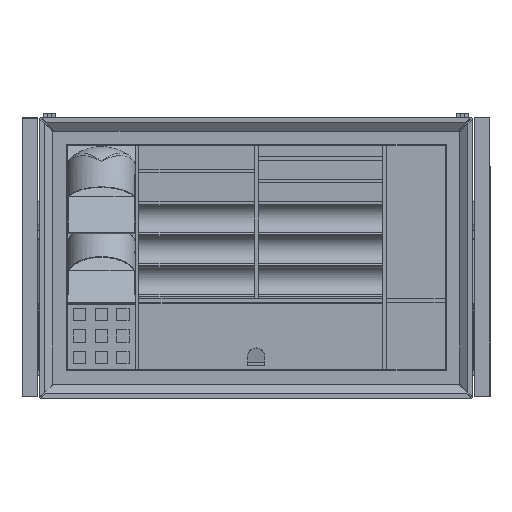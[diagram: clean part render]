
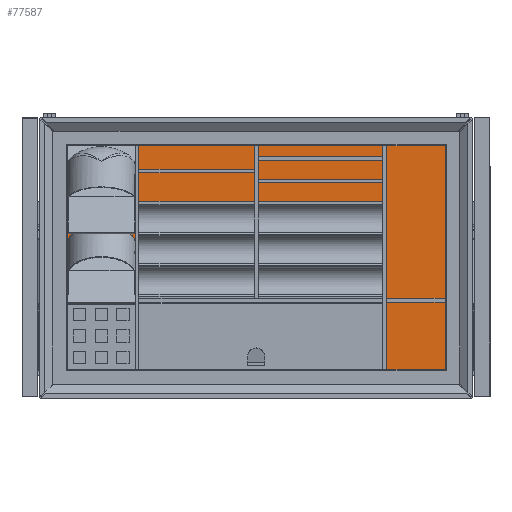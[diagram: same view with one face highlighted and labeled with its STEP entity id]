
A CAD part, top view. The second image highlights one B-rep face of the part: STEP entity #77587.
In plain terms, the highlighted planar face has unit normal (0, 0, 1).
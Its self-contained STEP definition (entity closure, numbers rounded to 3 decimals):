
#6275=ORIENTED_EDGE('',*,*,#29750,.F.);
#6276=ORIENTED_EDGE('',*,*,#29753,.T.);
#6277=ORIENTED_EDGE('',*,*,#29755,.T.);
#6278=ORIENTED_EDGE('',*,*,#29756,.F.);
#29750=EDGE_CURVE('',#41498,#41499,#48777,.T.);
#29753=EDGE_CURVE('',#41498,#41500,#48780,.T.);
#29755=EDGE_CURVE('',#41500,#41501,#48782,.T.);
#29756=EDGE_CURVE('',#41499,#41501,#48783,.T.);
#41498=VERTEX_POINT('',#115476);
#41499=VERTEX_POINT('',#115478);
#41500=VERTEX_POINT('',#115482);
#41501=VERTEX_POINT('',#115486);
#48777=LINE('',#115477,#56914);
#48780=LINE('',#115483,#56917);
#48782=LINE('',#115487,#56919);
#48783=LINE('',#115489,#56920);
#56914=VECTOR('',#91034,1000.);
#56917=VECTOR('',#91039,1000.);
#56919=VECTOR('',#91043,1000.);
#56920=VECTOR('',#91046,1000.);
#65039=EDGE_LOOP('',(#6275,#6276,#6277,#6278));
#70094=FACE_BOUND('',#65039,.T.);
#75147=PLANE('',#82846);
#77587=ADVANCED_FACE('',(#70094),#75147,.T.);
#82846=AXIS2_PLACEMENT_3D('',#115490,#91047,#91048);
#91034=DIRECTION('',(-1.,0.,0.));
#91039=DIRECTION('',(0.,1.,0.));
#91043=DIRECTION('',(-1.,0.,0.));
#91046=DIRECTION('',(0.,1.,0.));
#91047=DIRECTION('',(0.,0.,1.));
#91048=DIRECTION('',(1.,0.,0.));
#115476=CARTESIAN_POINT('',(308.,-183.5,8.4));
#115477=CARTESIAN_POINT('',(0.,-183.5,8.4));
#115478=CARTESIAN_POINT('',(-308.,-183.5,8.4));
#115482=CARTESIAN_POINT('',(308.,183.5,8.4));
#115483=CARTESIAN_POINT('',(308.,0.,8.4));
#115486=CARTESIAN_POINT('',(-308.,183.5,8.4));
#115487=CARTESIAN_POINT('',(0.,183.5,8.4));
#115489=CARTESIAN_POINT('',(-308.,0.,8.4));
#115490=CARTESIAN_POINT('',(0.,0.,8.4));
